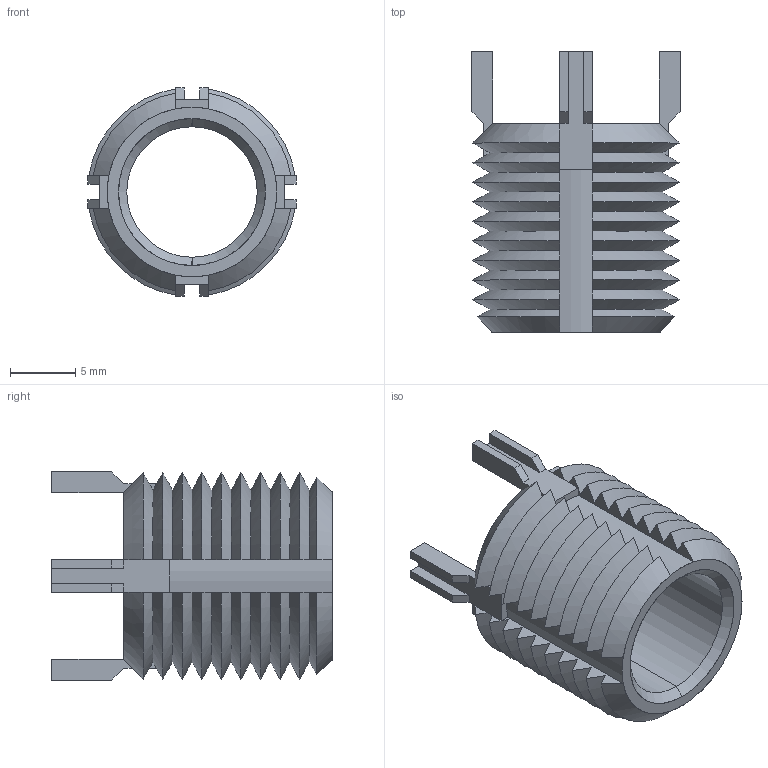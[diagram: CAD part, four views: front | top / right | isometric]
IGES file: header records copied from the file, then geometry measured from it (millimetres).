
Start section: SolidWorks IGES file using analytic representation for surfaces
Global section: file name: C:\Users\liam_\OneDrive\Documents\WORK\Work for WixRoyd\Job Files\J-00028 - Matt Davis CAD - 20191222\Wixroyd20191222\22002_v2\22002_v2_20200104_IGES\Default.igs; native system: SolidWorks 2017; preprocessor: SolidWorks 2017; author: liam_; date: 200104.213321; units: millimetre
Bounding box: 15.96 x 21.5 x 15.96 mm (x, y, z)
Surface area: 2169.4 mm2 (no closed solid volume)
Topology: 0 solids, 0 shells, 180 faces, 1072 edges, 1072 vertices
Faces by surface type: revolution 90, bspline 90
